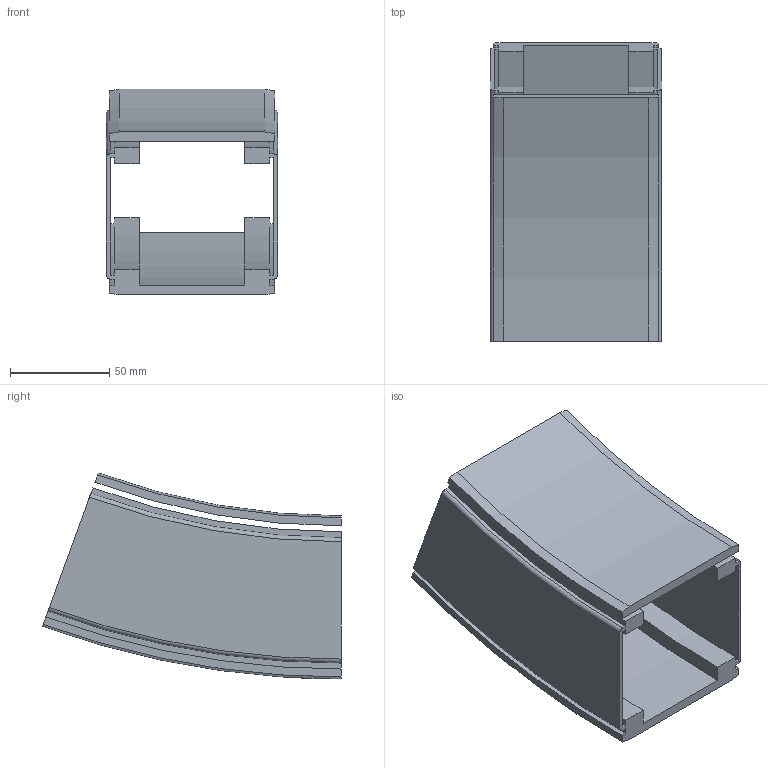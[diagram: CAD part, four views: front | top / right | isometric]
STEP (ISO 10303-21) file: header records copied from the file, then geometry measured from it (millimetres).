
FILE_DESCRIPTION(/* description */ ('VERTIKALKURVA S530 R400'),/* implementation_level */ '2;1');
FILE_NAME(/* name */ '530-5645+830-2000-NER-01.stp',/* time_stamp */ '2022-09-21T07:10:18+02:00',/* author */ ('Mathias.Dore'),/* organization */ ('CARRYLINE'),/* preprocessor_version */ 'ST-DEVELOPER v19.2',/* originating_system */ 'Autodesk Inventor 2023',/* authorisation */ '');
FILE_SCHEMA (('AUTOMOTIVE_DESIGN { 1 0 10303 214 3 1 1 }'));
Length unit declared in the file: millimetre
Products named in the file (1): 530-5645+830-2000-NER-01
Bounding box: 86 x 150.32 x 103.56 mm (x, y, z)
Volume: 206852.1 mm3; surface area: 102579.2 mm2
Topology: 2 solids, 2 shells, 87 faces, 234 edges, 156 vertices
Faces by surface type: plane 40, cylinder 25, bspline 14, cone 4, torus 4
Entity records: 7354 total; most frequent: CARTESIAN_POINT 5155, ORIENTED_EDGE 468, DIRECTION 408, EDGE_CURVE 234, VERTEX_POINT 156, AXIS2_PLACEMENT_3D 141, LINE 126, VECTOR 126
